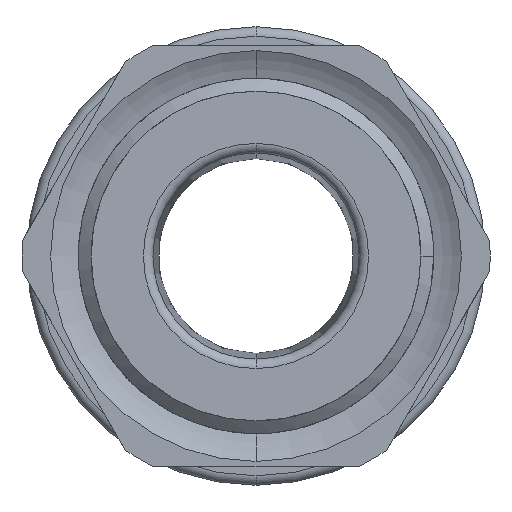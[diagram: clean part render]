
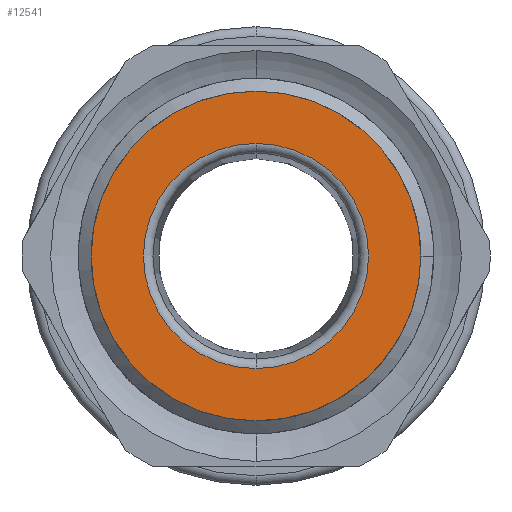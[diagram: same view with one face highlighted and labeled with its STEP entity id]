
A CAD part, front view. The second image highlights one B-rep face of the part: STEP entity #12541.
In plain terms, the highlighted planar face has unit normal (0, -1, 0).
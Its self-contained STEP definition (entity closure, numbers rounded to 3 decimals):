
#119 = DIRECTION ( 'NONE',  ( 0., -1., 0. ) ) ;
#1251 = DIRECTION ( 'NONE',  ( 0., -1., 0. ) ) ;
#1304 = VERTEX_POINT ( 'NONE', #4329 ) ;
#1721 = PLANE ( 'NONE',  #3789 ) ;
#2025 = EDGE_CURVE ( 'NONE', #13591, #20386, #10404, .T. ) ;
#2367 = FACE_OUTER_BOUND ( 'NONE', #6096, .T. ) ;
#2800 = VERTEX_POINT ( 'NONE', #4444 ) ;
#2918 = DIRECTION ( 'NONE',  ( 0., 0., -1. ) ) ;
#3172 = DIRECTION ( 'NONE',  ( 0., 0., -1. ) ) ;
#3244 = CARTESIAN_POINT ( 'NONE',  ( 5.893, 0., 0. ) ) ;
#3789 = AXIS2_PLACEMENT_3D ( 'NONE', #3244, #16033, #3172 ) ;
#4260 = ORIENTED_EDGE ( 'NONE', *, *, #2025, .F. ) ;
#4329 = CARTESIAN_POINT ( 'NONE',  ( 8.63, 0., 0. ) ) ;
#4376 = DIRECTION ( 'NONE',  ( 0., 0., -1. ) ) ;
#4444 = CARTESIAN_POINT ( 'NONE',  ( 0., 0., 8.63 ) ) ;
#6096 = EDGE_LOOP ( 'NONE', ( #11636, #19435, #12647 ) ) ;
#6249 = AXIS2_PLACEMENT_3D ( 'NONE', #8655, #19821, #7122 ) ;
#6365 = AXIS2_PLACEMENT_3D ( 'NONE', #9432, #12448, #2918 ) ;
#6666 = ORIENTED_EDGE ( 'NONE', *, *, #15457, .F. ) ;
#6885 = FACE_BOUND ( 'NONE', #17206, .T. ) ;
#7122 = DIRECTION ( 'NONE',  ( 0., 0., -1. ) ) ;
#8541 = CIRCLE ( 'NONE', #6249, 8.63 ) ;
#8655 = CARTESIAN_POINT ( 'NONE',  ( 0., 0., 0. ) ) ;
#9432 = CARTESIAN_POINT ( 'NONE',  ( 0., 0., 0. ) ) ;
#9972 = CARTESIAN_POINT ( 'NONE',  ( 0., 0., 0. ) ) ;
#10404 = CIRCLE ( 'NONE', #16990, 5.893 ) ;
#10600 = CARTESIAN_POINT ( 'NONE',  ( 0., 0., -5.893 ) ) ;
#11481 = AXIS2_PLACEMENT_3D ( 'NONE', #12234, #1251, #4376 ) ;
#11636 = ORIENTED_EDGE ( 'NONE', *, *, #16818, .T. ) ;
#12234 = CARTESIAN_POINT ( 'NONE',  ( 0., 0., 0. ) ) ;
#12448 = DIRECTION ( 'NONE',  ( 0., -1., 0. ) ) ;
#12541 = ADVANCED_FACE ( 'NONE', ( #2367, #6885 ), #1721, .T. ) ;
#12647 = ORIENTED_EDGE ( 'NONE', *, *, #15839, .T. ) ;
#13042 = CIRCLE ( 'NONE', #6365, 5.893 ) ;
#13591 = VERTEX_POINT ( 'NONE', #10600 ) ;
#14282 = CARTESIAN_POINT ( 'NONE',  ( 0., 0., -8.63 ) ) ;
#14436 = DIRECTION ( 'NONE',  ( 0., 0., -1. ) ) ;
#15141 = AXIS2_PLACEMENT_3D ( 'NONE', #9972, #17775, #19448 ) ;
#15457 = EDGE_CURVE ( 'NONE', #20386, #13591, #13042, .T. ) ;
#15490 = CARTESIAN_POINT ( 'NONE',  ( 0., 0., 0. ) ) ;
#15839 = EDGE_CURVE ( 'NONE', #20039, #1304, #8541, .T. ) ;
#16033 = DIRECTION ( 'NONE',  ( 0., -1., 0. ) ) ;
#16513 = CIRCLE ( 'NONE', #11481, 8.63 ) ;
#16818 = EDGE_CURVE ( 'NONE', #1304, #2800, #16513, .T. ) ;
#16990 = AXIS2_PLACEMENT_3D ( 'NONE', #15490, #119, #14436 ) ;
#17206 = EDGE_LOOP ( 'NONE', ( #4260, #6666 ) ) ;
#17289 = CARTESIAN_POINT ( 'NONE',  ( 0., 0., 5.893 ) ) ;
#17775 = DIRECTION ( 'NONE',  ( 0., -1., 0. ) ) ;
#19435 = ORIENTED_EDGE ( 'NONE', *, *, #20109, .T. ) ;
#19448 = DIRECTION ( 'NONE',  ( 0., 0., -1. ) ) ;
#19821 = DIRECTION ( 'NONE',  ( 0., -1., 0. ) ) ;
#19849 = CIRCLE ( 'NONE', #15141, 8.63 ) ;
#20039 = VERTEX_POINT ( 'NONE', #14282 ) ;
#20109 = EDGE_CURVE ( 'NONE', #2800, #20039, #19849, .T. ) ;
#20386 = VERTEX_POINT ( 'NONE', #17289 ) ;
